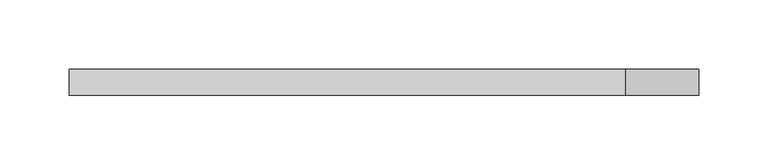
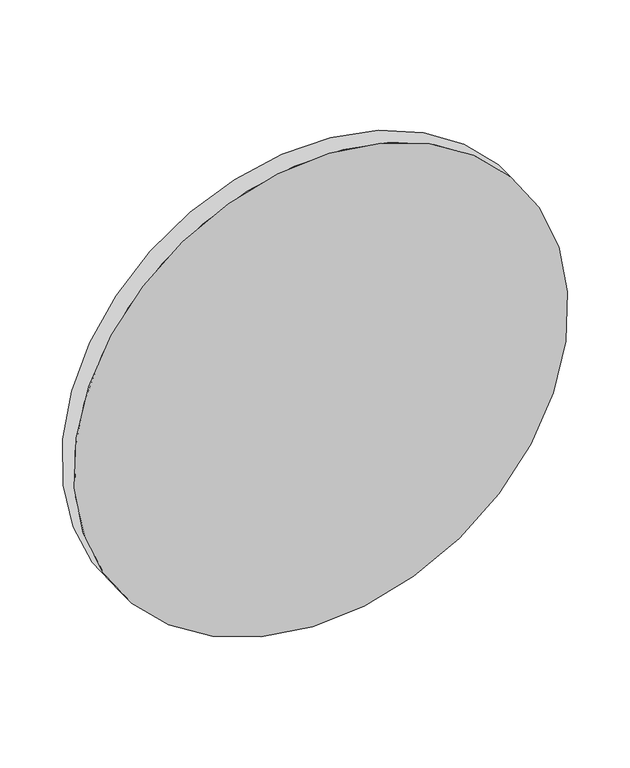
"""IFC4 building model written with IfcOpenShell, lengths in millimetres: proxy geometry, CAMBRIDGE^TABLE 3_2 BASE BOAT-PLINTH TOP."""

import ifcopenshell
import ifcopenshell.guid

model = None  # the IFC model being written
_history = None  # IfcOwnerHistory: only IFC2X3 demands one
_inside = {}  # id of a spatial element -> (the spatial element, [elements in it])
_under = {}  # id of a project, library or spatial element -> (it, [spatial elements below it])
_declared = {}  # id of a project -> (the project, [libraries it declares])
_typed = {}  # id of a type object -> (the type object, [elements of that type])
_made_of = {}  # id of a material, layer set ... -> (it, [elements and type objects made of it])


def new_model(schema):
    """Start an empty IFC model of exactly this schema.

    Asked for "IFC4X3", IfcOpenShell would pick the latest addendum, in which some entities
    have other attributes; the version numbers below select the first issue.
    IFC2X3 requires an IfcOwnerHistory on every rooted entity: one is made here for all.
    """
    global model, _history
    if schema == "IFC4X3":
        model = ifcopenshell.file(schema_version=(4, 3, 0, 0))
    else:
        model = ifcopenshell.file(schema=schema)
    _inside.clear()
    _under.clear()
    _declared.clear()
    _typed.clear()
    _made_of.clear()
    _history = None
    if model.schema == "IFC2X3":
        org = make("IfcOrganization", Name="unknown")
        user = make(
            "IfcPersonAndOrganization",
            ThePerson=make("IfcPerson", FamilyName="unknown"),
            TheOrganization=org,
        )
        app = make(
            "IfcApplication",
            ApplicationDeveloper=org,
            Version="unknown",
            ApplicationFullName="unknown",
            ApplicationIdentifier="unknown",
        )
        _history = make(
            "IfcOwnerHistory",
            OwningUser=user,
            OwningApplication=app,
            ChangeAction="ADDED",
            CreationDate=0,
        )
    return model


def make(cls, **values):
    """One entity of the class cls with the attributes given. An attribute that is None is left unset."""
    return model.create_entity(
        cls, **{name: value for name, value in values.items() if value is not None}
    )


def rooted(cls, **values):
    """An entity with a GlobalId (a new one), such as an element, a storey or a relation."""
    return make(cls, GlobalId=ifcopenshell.guid.new(), OwnerHistory=_history, **values)


def si_unit(unit_type, name, prefix=None):
    """IfcSIUnit, for example si_unit("LENGTHUNIT", "METRE", prefix="MILLI")."""
    return make("IfcSIUnit", UnitType=unit_type, Prefix=prefix, Name=name)


def assignment(units):
    """IfcUnitAssignment: the units of a project."""
    return None if units is None else make("IfcUnitAssignment", Units=units)


def point(xyz):
    """IfcCartesianPoint."""
    return None if xyz is None else make("IfcCartesianPoint", Coordinates=xyz)


def direction(xyz):
    """IfcDirection."""
    return None if xyz is None else make("IfcDirection", DirectionRatios=xyz)


def frame(location, z_axis=None, x_axis=None):
    """IfcAxis2Placement3D, a coordinate frame: its origin and axes. An axis left out is left unset."""
    return make(
        "IfcAxis2Placement3D",
        Location=point(location),
        Axis=direction(z_axis),
        RefDirection=direction(x_axis),
    )


def frame_2d(location, x_axis=None):
    """IfcAxis2Placement2D, a coordinate frame in the plane: its origin and x axis."""
    return make(
        "IfcAxis2Placement2D", Location=point(location), RefDirection=direction(x_axis)
    )


def origin():
    """The frame at (0, 0, 0) with its axes left unset."""
    return frame((0.0, 0.0, 0.0))


def place(relative_to, where):
    """IfcLocalPlacement: puts the frame where relative to a parent placement (None: the world)."""
    return make(
        "IfcLocalPlacement", PlacementRelTo=relative_to, RelativePlacement=where
    )


def context(
    kind, dimensions, precision=None, world=None, true_north=None, identifier=None
):
    """IfcGeometricRepresentationContext, for example the 3D "Model" context."""
    return make(
        "IfcGeometricRepresentationContext",
        ContextIdentifier=identifier,
        ContextType=kind,
        CoordinateSpaceDimension=dimensions,
        Precision=precision,
        WorldCoordinateSystem=world,
        TrueNorth=true_north,
    )


def project(units=None, contexts=None):
    """IfcProject with its units and contexts."""
    return rooted(
        "IfcProject",
        Name="project",
        RepresentationContexts=contexts,
        UnitsInContext=assignment(units),
    )


def spatial(cls, under=None, at=None, **own):
    """A site, building, storey or space (cls), placed at a placement, below another one or the project."""
    s = rooted(cls, ObjectPlacement=at, **own)
    if under is not None:
        _under.setdefault(under.id(), (under, []))[1].append(s)
    return s


def circle_curve(where, radius):
    """IfcCircle in the frame where."""
    return make("IfcCircle", Position=where, Radius=radius)


def trimmed(basis, trim1, trim2, sense, master):
    """IfcTrimmedCurve: the piece of a basis curve between two trims."""
    return make(
        "IfcTrimmedCurve",
        BasisCurve=basis,
        Trim1=trim1,
        Trim2=trim2,
        SenseAgreement=sense,
        MasterRepresentation=master,
    )


def segment(curve, same_sense, transition):
    """IfcCompositeCurveSegment."""
    return make(
        "IfcCompositeCurveSegment",
        Transition=transition,
        SameSense=same_sense,
        ParentCurve=curve,
    )


def composite_curve(segments, self_intersect=None):
    """IfcCompositeCurve: segments joined end to end."""
    return make("IfcCompositeCurve", Segments=segments, SelfIntersect=self_intersect)


def outline(outer, holes=None, kind="AREA"):
    """IfcArbitraryClosedProfileDef: a profile drawn as a closed curve; with holes, ...WithVoids."""
    if holes is None:
        return make("IfcArbitraryClosedProfileDef", ProfileType=kind, OuterCurve=outer)
    return make(
        "IfcArbitraryProfileDefWithVoids",
        ProfileType=kind,
        OuterCurve=outer,
        InnerCurves=holes,
    )


def extrude(swept, where, along, depth):
    """IfcExtrudedAreaSolid: the profile swept, set in the frame where, extruded along a direction by depth."""
    return make(
        "IfcExtrudedAreaSolid",
        SweptArea=swept,
        Position=where,
        ExtrudedDirection=direction(along),
        Depth=depth,
    )


def shape(context_of_items, identifier, shape_type, items):
    """IfcShapeRepresentation: the items that make up one representation, for example the "Body"."""
    return make(
        "IfcShapeRepresentation",
        ContextOfItems=context_of_items,
        RepresentationIdentifier=identifier,
        RepresentationType=shape_type,
        Items=items,
    )


def source(mapping_origin, context_of_items, identifier, shape_type, items):
    """IfcRepresentationMap: a shape defined once, which mapped items show again and again."""
    return make(
        "IfcRepresentationMap",
        MappingOrigin=mapping_origin,
        MappedRepresentation=shape(context_of_items, identifier, shape_type, items),
    )


def transform(
    local_origin,
    x_axis=None,
    y_axis=None,
    z_axis=None,
    scale=None,
    scale2=None,
    scale3=None,
    uniform=True,
):
    """IfcCartesianTransformationOperator3D, or its non-uniform kind. x_axis, y_axis, z_axis: its Axis1, 2, 3."""
    if uniform:
        return make(
            "IfcCartesianTransformationOperator3D",
            Axis1=direction(x_axis),
            Axis2=direction(y_axis),
            LocalOrigin=point(local_origin),
            Scale=scale,
            Axis3=direction(z_axis),
        )
    return make(
        "IfcCartesianTransformationOperator3DnonUniform",
        Axis1=direction(x_axis),
        Axis2=direction(y_axis),
        LocalOrigin=point(local_origin),
        Scale=scale,
        Axis3=direction(z_axis),
        Scale2=scale2,
        Scale3=scale3,
    )


def mapped(mapping_source, mapping_target):
    """IfcMappedItem: shows the shape of a source again, moved by a transform."""
    return make(
        "IfcMappedItem", MappingSource=mapping_source, MappingTarget=mapping_target
    )


def made_of(thing, what):
    """Note that an element or type object is made of a material, layer set ...; save() writes the relation."""
    if what is not None:
        _made_of.setdefault(what.id(), (what, []))[1].append(thing)
    return thing


def element(
    cls,
    number,
    at=None,
    inside=None,
    cuts=None,
    type_object=None,
    material=None,
    context=None,
    identifier="Body",
    shape_type=None,
    held_by="IfcProductDefinitionShape",
    body=None,
    shapes=None,
    **own,
):
    """One element of the class cls, such as IfcWall. Its Tag is "e" and its number.

    at: its placement. inside: the storey or other place that contains it. cuts: it is an
    opening in that element (IfcRelVoidsElement). A single representation is given by context,
    identifier, shape_type and body (its items); several are given by shapes. held_by: the class
    of the entity that holds the representations. save() writes the other relations.
    """
    e = rooted(cls, Tag="e%d" % number, ObjectPlacement=at, **own)
    if body is not None:
        shapes = [shape(context, identifier, shape_type, body)]
    if shapes is not None:
        e.Representation = make(held_by, Representations=shapes)
    if inside is not None:
        _inside.setdefault(inside.id(), (inside, []))[1].append(e)
    if cuts is not None:
        rooted(
            "IfcRelVoidsElement", RelatingBuildingElement=cuts, RelatedOpeningElement=e
        )
    if type_object is not None:
        _typed.setdefault(type_object.id(), (type_object, []))[1].append(e)
    return made_of(e, material)


def aggregate(whole, parts):
    """IfcRelAggregates: a whole, such as a stair, and the parts it consists of."""
    return rooted("IfcRelAggregates", RelatingObject=whole, RelatedObjects=parts)


def save(model, path):
    """Write the relations noted so far, then the file.

    IfcRelAggregates (storeys below a building ...), IfcRelContainedInSpatialStructure (elements
    in a storey), IfcRelDefinesByType, IfcRelAssociatesMaterial and IfcRelDeclares: one each for
    every whole, place, type object, material and project.
    """
    for whole, parts in _under.values():
        aggregate(whole, parts)
    for where, things in _inside.values():
        rooted(
            "IfcRelContainedInSpatialStructure",
            RelatedElements=things,
            RelatingStructure=where,
        )
    for kind, things in _typed.values():
        rooted("IfcRelDefinesByType", RelatedObjects=things, RelatingType=kind)
    for what, things in _made_of.values():
        rooted("IfcRelAssociatesMaterial", RelatedObjects=things, RelatingMaterial=what)
    for by, libraries in _declared.values():
        rooted("IfcRelDeclares", RelatingContext=by, RelatedDefinitions=libraries)
    model.write(path)


def generic_models_c0f88156(model_context):
    return source(origin(), model_context, "Body", "SweptSolid", [
        extrude(outline(composite_curve([segment(trimmed(circle_curve(frame_2d((-685.8, -762.0)), 228.6), [point((-538.8587524, -586.8822403))], [point((-832.7412476, -937.1177597))], False, "CARTESIAN"), True, "CONTINUOUS"), segment(trimmed(circle_curve(frame_2d((-685.8, -762.0)), 228.6), [point((-832.7412476, -937.1177597))], [point((-538.8587524, -586.8822403))], False, "CARTESIAN"), True, "CONTINUOUS")], self_intersect=False)), frame((0.0, -635.0, 0.0), z_axis=(0.0, 1.0, 0.0), x_axis=(0.0, 0.0, 1.0)), (0.0, 0.0, 1.0), 19.05),
    ])


if __name__ == "__main__":
    model = new_model("IFC4")
    model_context = context("Model", 3, world=origin())
    ifc_project = project(units=[si_unit("LENGTHUNIT", "METRE", prefix="MILLI")], contexts=[model_context])
    site = spatial("IfcSite", under=ifc_project)
    building = spatial("IfcBuilding", under=site)
    placement = place(None, origin())
    generic_models_shape = generic_models_c0f88156(model_context)
    element("IfcBuildingElementProxy", 1, Name="CAMBRIDGE^TABLE 3_2 BASE BOAT-PLINTH TOP", ObjectType="CAMBRIDGE^TABLE 3_2 BASE BOAT-PLINTH TOP", at=placement, inside=building, context=model_context, shape_type="MappedRepresentation", body=[
        mapped(generic_models_shape, transform((0.0, 0.0, 0.0), x_axis=(1.0, 0.0, 0.0), y_axis=(0.0, 1.0, 0.0), z_axis=(0.0, 0.0, 1.0))),
    ])
    save(model, "model.ifc")
